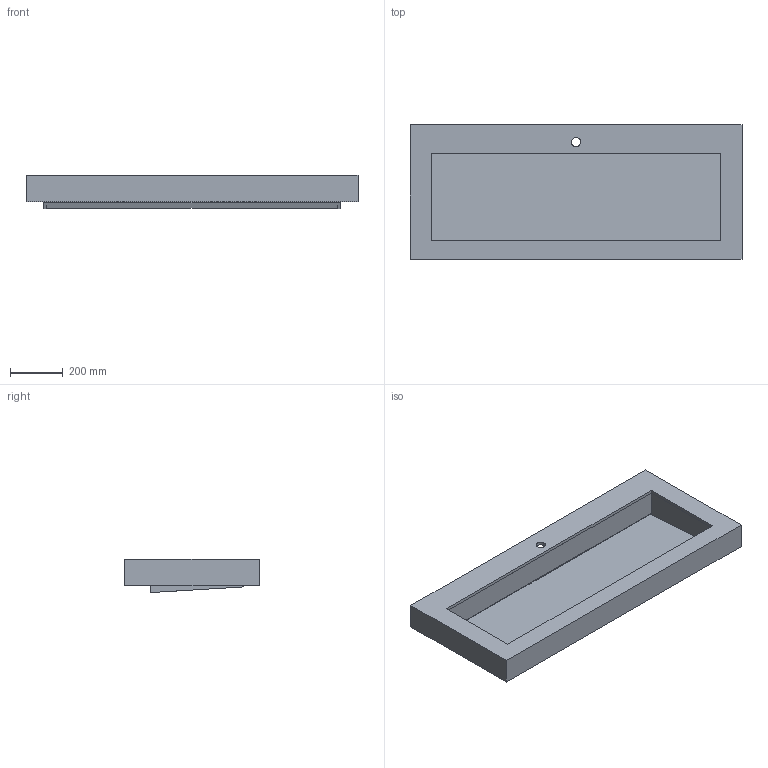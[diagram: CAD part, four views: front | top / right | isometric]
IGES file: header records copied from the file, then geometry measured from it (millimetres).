
Start section: Data from Parasolid IGES Translator 19.0.9, Copyright(c) 2006 Siemens PL M Software. All Rights Reserved.
Global section: file name: noorth-top-H 10 D 51,3 W 126_4964.igs; native system: By Siemens PLM Incorporated; preprocessor: XPlus GENERIC/IGES 19.0.9; author: Noname; organization: Noname; date: 20200603.113843; units: metre
Bounding box: 1260 x 512 x 125.71 mm (x, y, z)
Volume: 14011529.6 mm3; surface area: 2386262.3 mm2
Topology: 2 solids, 2 shells, 34 faces, 93 edges, 62 vertices
Faces by surface type: plane 33, cylinder 1
Full cylindrical faces by diameter (mm): 34.9 x1
